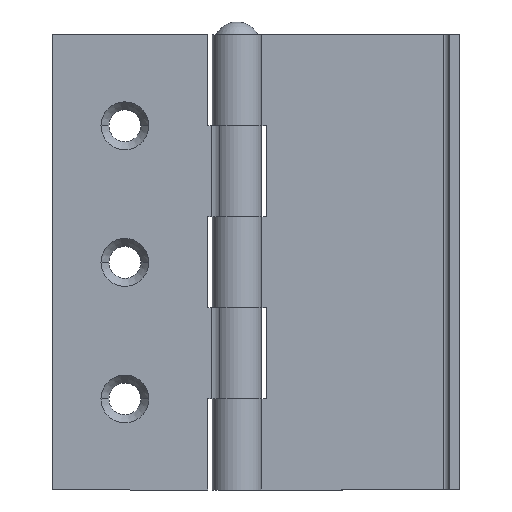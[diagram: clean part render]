
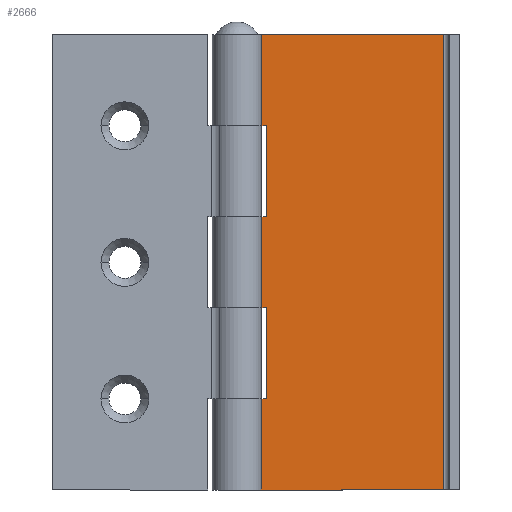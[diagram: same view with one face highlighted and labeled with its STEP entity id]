
A CAD part, front view. The second image highlights one B-rep face of the part: STEP entity #2666.
In plain terms, the highlighted planar face has unit normal (0, -1, 0).
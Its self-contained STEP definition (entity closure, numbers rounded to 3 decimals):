
#1561=CARTESIAN_POINT('',(0.0,1.5,0.0));
#1562=VERTEX_POINT('',#1561);
#1570=CARTESIAN_POINT('',(0.0,1.5,3.0));
#1571=VERTEX_POINT('',#1570);
#1572=CARTESIAN_POINT('',(0.0,1.5,3.0));
#1573=DIRECTION('',(0.0,0.0,-1.0));
#1574=VECTOR('',#1573,3.0);
#1575=LINE('',#1572,#1574);
#1576=EDGE_CURVE('',#1571,#1562,#1575,.T.);
#1960=CARTESIAN_POINT('',(0.0,1.5,10.0));
#1961=VERTEX_POINT('',#1960);
#1962=CARTESIAN_POINT('',(0.0,1.5,10.0));
#1963=DIRECTION('',(0.0,0.0,-1.0));
#1964=VECTOR('',#1963,7.0);
#1965=LINE('',#1962,#1964);
#1966=EDGE_CURVE('',#1961,#1571,#1965,.T.);
#1976=CARTESIAN_POINT('',(0.0,1.5,20.0));
#1977=VERTEX_POINT('',#1976);
#1985=CARTESIAN_POINT('',(0.,1.5,30.0));
#1986=VERTEX_POINT('',#1985);
#1987=CARTESIAN_POINT('',(0.,1.5,30.0));
#1988=DIRECTION('',(0.0,0.0,-1.0));
#1989=VECTOR('',#1988,10.0);
#1990=LINE('',#1987,#1989);
#1991=EDGE_CURVE('',#1986,#1977,#1990,.T.);
#2001=CARTESIAN_POINT('',(0.,1.5,40.0));
#2002=VERTEX_POINT('',#2001);
#2010=CARTESIAN_POINT('',(0.,1.5,50.0));
#2011=VERTEX_POINT('',#2010);
#2012=CARTESIAN_POINT('',(0.,1.5,50.0));
#2013=DIRECTION('',(0.0,0.0,-1.0));
#2014=VECTOR('',#2013,10.0);
#2015=LINE('',#2012,#2014);
#2016=EDGE_CURVE('',#2011,#2002,#2015,.T.);
#2086=CARTESIAN_POINT('',(1.752,1.5,50.0));
#2087=VERTEX_POINT('',#2086);
#2088=CARTESIAN_POINT('',(0.,1.5,50.0));
#2089=DIRECTION('',(1.0,0.0,0.0));
#2090=VECTOR('',#2089,1.752);
#2091=LINE('',#2088,#2090);
#2092=EDGE_CURVE('',#2011,#2087,#2091,.T.);
#2214=CARTESIAN_POINT('',(3.2,1.5,10.0));
#2215=VERTEX_POINT('',#2214);
#2216=CARTESIAN_POINT('',(3.2,1.5,10.0));
#2217=DIRECTION('',(-1.0,0.0,0.0));
#2218=VECTOR('',#2217,3.2);
#2219=LINE('',#2216,#2218);
#2220=EDGE_CURVE('',#2215,#1961,#2219,.T.);
#2264=CARTESIAN_POINT('',(3.2,1.5,20.0));
#2265=VERTEX_POINT('',#2264);
#2266=CARTESIAN_POINT('',(0.0,1.5,20.0));
#2267=DIRECTION('',(1.0,0.0,0.0));
#2268=VECTOR('',#2267,3.2);
#2269=LINE('',#2266,#2268);
#2270=EDGE_CURVE('',#1977,#2265,#2269,.T.);
#2314=CARTESIAN_POINT('',(3.2,1.5,20.0));
#2315=DIRECTION('',(0.0,0.0,-1.0));
#2316=VECTOR('',#2315,10.0);
#2317=LINE('',#2314,#2316);
#2318=EDGE_CURVE('',#2265,#2215,#2317,.T.);
#2498=CARTESIAN_POINT('',(3.2,1.5,30.0));
#2499=VERTEX_POINT('',#2498);
#2500=CARTESIAN_POINT('',(3.2,1.5,30.0));
#2501=DIRECTION('',(-1.0,0.0,0.0));
#2502=VECTOR('',#2501,3.2);
#2503=LINE('',#2500,#2502);
#2504=EDGE_CURVE('',#2499,#1986,#2503,.T.);
#2528=CARTESIAN_POINT('',(3.2,1.5,40.0));
#2529=VERTEX_POINT('',#2528);
#2530=CARTESIAN_POINT('',(0.,1.5,40.0));
#2531=DIRECTION('',(1.0,0.0,0.0));
#2532=VECTOR('',#2531,3.2);
#2533=LINE('',#2530,#2532);
#2534=EDGE_CURVE('',#2002,#2529,#2533,.T.);
#2571=CARTESIAN_POINT('',(3.2,1.5,40.0));
#2572=DIRECTION('',(0.0,0.0,-1.0));
#2573=VECTOR('',#2572,10.0);
#2574=LINE('',#2571,#2573);
#2575=EDGE_CURVE('',#2529,#2499,#2574,.T.);
#2626=CARTESIAN_POINT('',(0.,1.5,50.0));
#2627=DIRECTION('',(0.0,-1.0,0.0));
#2628=DIRECTION('',(0.0,0.0,-1.0));
#2629=AXIS2_PLACEMENT_3D('',#2626,#2627,#2628);
#2630=PLANE('',#2629);
#2631=ORIENTED_EDGE('',*,*,#2220,.T.);
#2632=ORIENTED_EDGE('',*,*,#1966,.T.);
#2633=ORIENTED_EDGE('',*,*,#1576,.T.);
#2634=CARTESIAN_POINT('',(22.7,1.5,0.));
#2635=VERTEX_POINT('',#2634);
#2636=CARTESIAN_POINT('',(0.0,1.5,0.0));
#2637=DIRECTION('',(1.0,0.0,0.0));
#2638=VECTOR('',#2637,22.7);
#2639=LINE('',#2636,#2638);
#2640=EDGE_CURVE('',#1562,#2635,#2639,.T.);
#2641=ORIENTED_EDGE('',*,*,#2640,.T.);
#2642=CARTESIAN_POINT('',(22.7,1.5,50.));
#2643=VERTEX_POINT('',#2642);
#2644=CARTESIAN_POINT('',(22.7,1.5,50.));
#2645=DIRECTION('',(0.0,0.0,-1.0));
#2646=VECTOR('',#2645,50.0);
#2647=LINE('',#2644,#2646);
#2648=EDGE_CURVE('',#2643,#2635,#2647,.T.);
#2649=ORIENTED_EDGE('',*,*,#2648,.F.);
#2650=CARTESIAN_POINT('',(1.752,1.5,50.0));
#2651=DIRECTION('',(1.0,0.0,0.0));
#2652=VECTOR('',#2651,20.948);
#2653=LINE('',#2650,#2652);
#2654=EDGE_CURVE('',#2087,#2643,#2653,.T.);
#2655=ORIENTED_EDGE('',*,*,#2654,.F.);
#2656=ORIENTED_EDGE('',*,*,#2092,.F.);
#2657=ORIENTED_EDGE('',*,*,#2016,.T.);
#2658=ORIENTED_EDGE('',*,*,#2534,.T.);
#2659=ORIENTED_EDGE('',*,*,#2575,.T.);
#2660=ORIENTED_EDGE('',*,*,#2504,.T.);
#2661=ORIENTED_EDGE('',*,*,#1991,.T.);
#2662=ORIENTED_EDGE('',*,*,#2270,.T.);
#2663=ORIENTED_EDGE('',*,*,#2318,.T.);
#2664=EDGE_LOOP('',(#2631,#2632,#2633,#2641,#2649,#2655,#2656,#2657,#2658,#2659,#2660,#2661,#2662,#2663));
#2665=FACE_OUTER_BOUND('',#2664,.T.);
#2666=ADVANCED_FACE('',(#2665),#2630,.T.);
